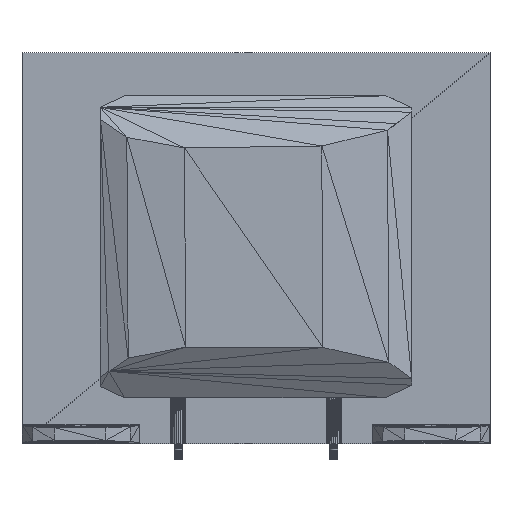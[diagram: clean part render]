
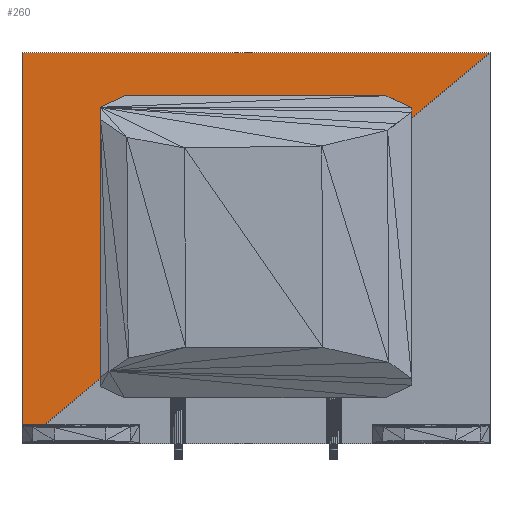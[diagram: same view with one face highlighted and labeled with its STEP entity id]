
A CAD part, front view. The second image highlights one B-rep face of the part: STEP entity #260.
In plain terms, the highlighted planar face has unit normal (0, -1, 0).
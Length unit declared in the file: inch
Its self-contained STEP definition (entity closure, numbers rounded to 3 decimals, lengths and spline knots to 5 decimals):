
#66=CARTESIAN_POINT('',(-1.50313,-0.7125,-0.00015));
#67=VERTEX_POINT('',#66);
#167=CARTESIAN_POINT('',(-1.50313,-0.71301,2.51236));
#168=VERTEX_POINT('',#167);
#190=CARTESIAN_POINT('',(-1.50313,-0.7125,-0.00015));
#191=DIRECTION('',(0.,0.,1.));
#192=VECTOR('',#191,2.5125);
#193=LINE('',#190,#192);
#194=EDGE_CURVE('',#67,#168,#193,.T.);
#206=CARTESIAN_POINT('',(1.50313,-0.71301,2.51236));
#207=VERTEX_POINT('',#206);
#240=CARTESIAN_POINT('',(1.50313,-0.71301,2.51236));
#241=DIRECTION('',(0.,1.,0.));
#242=DIRECTION('',(1.,0.,0.));
#243=AXIS2_PLACEMENT_3D('',#240,#241,#242);
#244=PLANE('',#243);
#245=CARTESIAN_POINT('',(-1.50313,-0.71301,2.51236));
#246=DIRECTION('',(1.,0.,-0.));
#247=VECTOR('',#246,3.00626);
#248=LINE('',#245,#247);
#249=EDGE_CURVE('',#168,#207,#248,.T.);
#250=ORIENTED_EDGE('',*,*,#249,.F.);
#251=ORIENTED_EDGE('',*,*,#194,.F.);
#252=CARTESIAN_POINT('',(-1.50313,-0.7125,-0.00015));
#253=DIRECTION('',(0.767,0.,0.641));
#254=VECTOR('',#253,3.91794);
#255=LINE('',#252,#254);
#256=EDGE_CURVE('',#67,#207,#255,.T.);
#257=ORIENTED_EDGE('',*,*,#256,.T.);
#258=EDGE_LOOP('',(#250,#251,#257));
#259=FACE_BOUND('',#258,.T.);
#260=ADVANCED_FACE('',(#259),#244,.F.);
